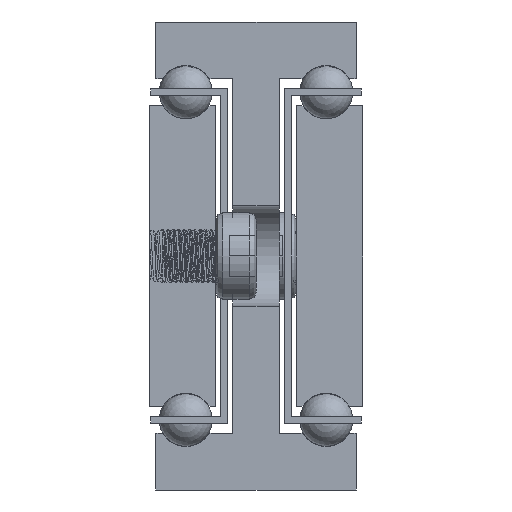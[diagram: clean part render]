
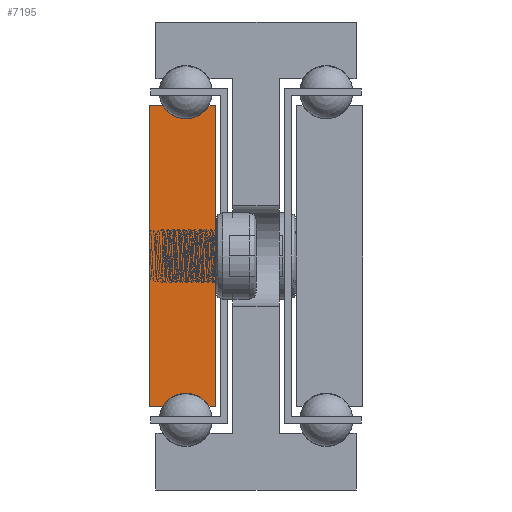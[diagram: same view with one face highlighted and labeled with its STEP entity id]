
A CAD part, front view. The second image highlights one B-rep face of the part: STEP entity #7195.
In plain terms, the highlighted planar face has unit normal (0, -1, 0).
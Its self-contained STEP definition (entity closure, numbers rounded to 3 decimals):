
#1181=CIRCLE('',#7751,4.);
#1183=CIRCLE('',#7757,4.);
#1809=FACE_OUTER_BOUND('',#2277,.T.);
#2277=EDGE_LOOP('',(#5702,#5703,#5704,#5705,#5706,#5707,#5708,#5709));
#3076=LINE('',#99163,#3288);
#3079=LINE('',#99169,#3291);
#3083=LINE('',#99181,#3295);
#3086=LINE('',#99187,#3298);
#3089=LINE('',#99193,#3301);
#3093=LINE('',#99203,#3305);
#3288=VECTOR('',#8690,1.);
#3291=VECTOR('',#8695,1.);
#3295=VECTOR('',#8707,1.);
#3298=VECTOR('',#8712,1.);
#3301=VECTOR('',#8717,1.);
#3305=VECTOR('',#8729,1.);
#3588=VERTEX_POINT('',#99160);
#3589=VERTEX_POINT('',#99162);
#3591=VERTEX_POINT('',#99168);
#3593=VERTEX_POINT('',#99174);
#3595=VERTEX_POINT('',#99180);
#3597=VERTEX_POINT('',#99186);
#3599=VERTEX_POINT('',#99192);
#3601=VERTEX_POINT('',#99198);
#4506=EDGE_CURVE('',#3589,#3588,#3076,.T.);
#4509=EDGE_CURVE('',#3591,#3589,#3079,.T.);
#4512=EDGE_CURVE('',#3593,#3591,#1181,.T.);
#4515=EDGE_CURVE('',#3595,#3593,#3083,.T.);
#4518=EDGE_CURVE('',#3597,#3595,#3086,.T.);
#4521=EDGE_CURVE('',#3599,#3597,#3089,.T.);
#4524=EDGE_CURVE('',#3601,#3599,#1183,.T.);
#4527=EDGE_CURVE('',#3588,#3601,#3093,.T.);
#5702=ORIENTED_EDGE('',*,*,#4527,.T.);
#5703=ORIENTED_EDGE('',*,*,#4524,.T.);
#5704=ORIENTED_EDGE('',*,*,#4521,.T.);
#5705=ORIENTED_EDGE('',*,*,#4518,.T.);
#5706=ORIENTED_EDGE('',*,*,#4515,.T.);
#5707=ORIENTED_EDGE('',*,*,#4512,.T.);
#5708=ORIENTED_EDGE('',*,*,#4509,.T.);
#5709=ORIENTED_EDGE('',*,*,#4506,.T.);
#7049=PLANE('',#7760);
#7195=ADVANCED_FACE('',(#1809),#7049,.T.);
#7751=AXIS2_PLACEMENT_3D('',#99175,#8701,#8702);
#7757=AXIS2_PLACEMENT_3D('',#99199,#8723,#8724);
#7760=AXIS2_PLACEMENT_3D('',#99205,#8732,#8733);
#8690=DIRECTION('',(0.,0.,-1.));
#8695=DIRECTION('',(-1.,0.,0.));
#8701=DIRECTION('center_axis',(0.,1.,0.));
#8702=DIRECTION('ref_axis',(-0.866,0.,-0.5));
#8707=DIRECTION('',(-1.,0.,0.));
#8712=DIRECTION('',(0.,0.,1.));
#8717=DIRECTION('',(1.,0.,0.));
#8723=DIRECTION('center_axis',(0.,1.,0.));
#8724=DIRECTION('ref_axis',(0.866,0.,0.5));
#8729=DIRECTION('',(1.,0.,0.));
#8732=DIRECTION('center_axis',(0.,-1.,0.));
#8733=DIRECTION('ref_axis',(1.,0.,0.));
#99160=CARTESIAN_POINT('',(-825.115,-922.425,-57.5));
#99162=CARTESIAN_POINT('',(-825.115,-922.425,-12.5));
#99163=CARTESIAN_POINT('',(-825.115,-922.425,-57.5));
#99168=CARTESIAN_POINT('',(-823.079,-922.425,-12.5));
#99169=CARTESIAN_POINT('',(-825.115,-922.425,-12.5));
#99174=CARTESIAN_POINT('',(-816.151,-922.425,-12.5));
#99175=CARTESIAN_POINT('Origin',(-819.615,-922.425,-10.5));
#99180=CARTESIAN_POINT('',(-815.115,-922.425,-12.5));
#99181=CARTESIAN_POINT('',(-816.151,-922.425,-12.5));
#99186=CARTESIAN_POINT('',(-815.115,-922.425,-57.5));
#99187=CARTESIAN_POINT('',(-815.115,-922.425,-12.5));
#99192=CARTESIAN_POINT('',(-816.151,-922.425,-57.5));
#99193=CARTESIAN_POINT('',(-815.115,-922.425,-57.5));
#99198=CARTESIAN_POINT('',(-823.079,-922.425,-57.5));
#99199=CARTESIAN_POINT('Origin',(-819.615,-922.425,-59.5));
#99203=CARTESIAN_POINT('',(-823.079,-922.425,-57.5));
#99205=CARTESIAN_POINT('Origin',(-820.121,-922.425,-35.));
